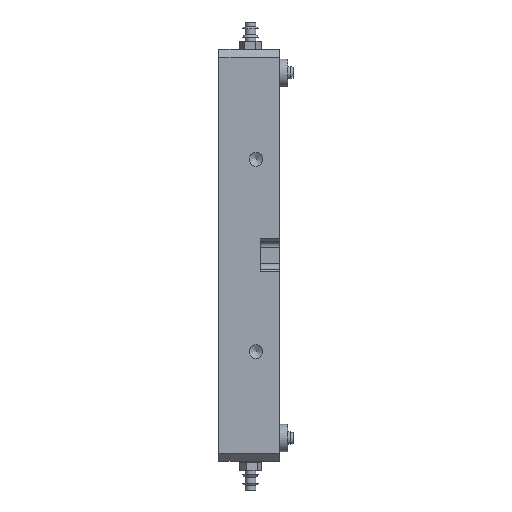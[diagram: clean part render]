
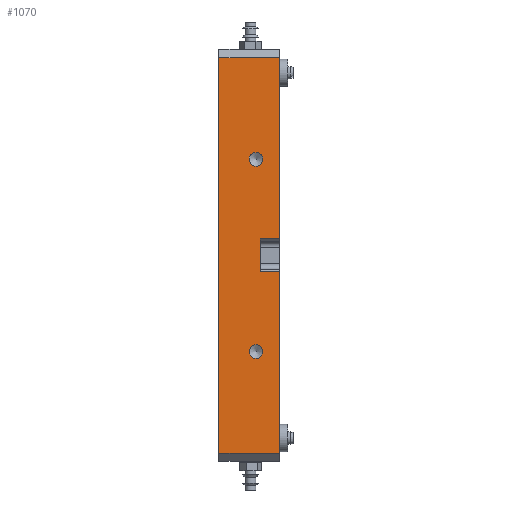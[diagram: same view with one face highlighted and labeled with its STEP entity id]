
A CAD part, front view. The second image highlights one B-rep face of the part: STEP entity #1070.
In plain terms, the highlighted planar face has unit normal (0, -1, 0).
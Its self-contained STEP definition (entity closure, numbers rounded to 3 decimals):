
#264 = DIRECTION ( 'NONE',  ( 1., 0., 0. ) ) ;
#273 = DIRECTION ( 'NONE',  ( 1., 0., 0. ) ) ;
#434 = ORIENTED_EDGE ( 'NONE', *, *, #3980, .F. ) ;
#486 = DIRECTION ( 'NONE',  ( 1., 0., 0. ) ) ;
#702 = DIRECTION ( 'NONE',  ( 0., -1., 0. ) ) ;
#732 = VECTOR ( 'NONE', #4940, 1000. ) ;
#747 = LINE ( 'NONE', #3684, #732 ) ;
#834 = LINE ( 'NONE', #4750, #847 ) ;
#845 = CARTESIAN_POINT ( 'NONE',  ( 17., -6., -72. ) ) ;
#847 = VECTOR ( 'NONE', #1582, 1000. ) ;
#870 = VECTOR ( 'NONE', #264, 1000. ) ;
#878 = LINE ( 'NONE', #845, #870 ) ;
#915 = FACE_BOUND ( 'NONE', #6339, .T. ) ;
#935 = VECTOR ( 'NONE', #6618, 1000. ) ;
#950 = LINE ( 'NONE', #2159, #935 ) ;
#952 = FACE_OUTER_BOUND ( 'NONE', #2759, .T. ) ;
#973 = FACE_BOUND ( 'NONE', #3783, .T. ) ;
#1070 = ADVANCED_FACE ( 'NONE', ( #952, #973, #915 ), #7383, .T. ) ;
#1187 = ORIENTED_EDGE ( 'NONE', *, *, #5937, .T. ) ;
#1318 = ORIENTED_EDGE ( 'NONE', *, *, #5388, .T. ) ;
#1546 = ORIENTED_EDGE ( 'NONE', *, *, #8186, .F. ) ;
#1552 = ORIENTED_EDGE ( 'NONE', *, *, #8084, .F. ) ;
#1577 = CIRCLE ( 'NONE', #4838, 2.5 ) ;
#1582 = DIRECTION ( 'NONE',  ( 0., 0., -1. ) ) ;
#1762 = CIRCLE ( 'NONE', #4982, 2.5 ) ;
#1830 = CARTESIAN_POINT ( 'NONE',  ( 22., -6., -40. ) ) ;
#1944 = ORIENTED_EDGE ( 'NONE', *, *, #7222, .F. ) ;
#1951 = ORIENTED_EDGE ( 'NONE', *, *, #8045, .T. ) ;
#1961 = ORIENTED_EDGE ( 'NONE', *, *, #4876, .T. ) ;
#1965 = CARTESIAN_POINT ( 'NONE',  ( 22., -6., -72. ) ) ;
#1977 = ORIENTED_EDGE ( 'NONE', *, *, #8023, .T. ) ;
#2159 = CARTESIAN_POINT ( 'NONE',  ( 0., -6., 72. ) ) ;
#2173 = ORIENTED_EDGE ( 'NONE', *, *, #6933, .F. ) ;
#2281 = VECTOR ( 'NONE', #7495, 1000. ) ;
#2326 = LINE ( 'NONE', #7207, #2281 ) ;
#2672 = DIRECTION ( 'NONE',  ( 0., 0., -1. ) ) ;
#2722 = VECTOR ( 'NONE', #486, 1000. ) ;
#2728 = LINE ( 'NONE', #3079, #2722 ) ;
#2759 = EDGE_LOOP ( 'NONE', ( #434, #1187, #1552, #1318, #1546, #1977, #1961, #1951 ) ) ;
#3013 = VECTOR ( 'NONE', #2672, 1000. ) ;
#3061 = LINE ( 'NONE', #5825, #3013 ) ;
#3079 = CARTESIAN_POINT ( 'NONE',  ( 22., -6., 6. ) ) ;
#3459 = CARTESIAN_POINT ( 'NONE',  ( 15., -6., -6. ) ) ;
#3684 = CARTESIAN_POINT ( 'NONE',  ( 22., -6., -40. ) ) ;
#3685 = VECTOR ( 'NONE', #3826, 1000. ) ;
#3707 = LINE ( 'NONE', #1830, #3685 ) ;
#3783 = EDGE_LOOP ( 'NONE', ( #1944 ) ) ;
#3826 = DIRECTION ( 'NONE',  ( 0., 0., -1. ) ) ;
#3980 = EDGE_CURVE ( 'NONE', #5057, #4849, #3707, .T. ) ;
#4022 = CARTESIAN_POINT ( 'NONE',  ( 16., -6., -35. ) ) ;
#4166 = DIRECTION ( 'NONE',  ( 0., -1., 0. ) ) ;
#4601 = CARTESIAN_POINT ( 'NONE',  ( 15., -6., 6. ) ) ;
#4606 = CARTESIAN_POINT ( 'NONE',  ( 13.5, -6., -35. ) ) ;
#4750 = CARTESIAN_POINT ( 'NONE',  ( 15., -6., -5. ) ) ;
#4758 = CARTESIAN_POINT ( 'NONE',  ( 22., -6., -6. ) ) ;
#4838 = AXIS2_PLACEMENT_3D ( 'NONE', #7935, #4166, #273 ) ;
#4849 = VERTEX_POINT ( 'NONE', #1965 ) ;
#4876 = EDGE_CURVE ( 'NONE', #5008, #4999, #3061, .T. ) ;
#4921 = VERTEX_POINT ( 'NONE', #4601 ) ;
#4940 = DIRECTION ( 'NONE',  ( 0., 0., -1. ) ) ;
#4954 = VERTEX_POINT ( 'NONE', #7117 ) ;
#4979 = VERTEX_POINT ( 'NONE', #3459 ) ;
#4982 = AXIS2_PLACEMENT_3D ( 'NONE', #4606, #702, #5245 ) ;
#4999 = VERTEX_POINT ( 'NONE', #5354 ) ;
#5008 = VERTEX_POINT ( 'NONE', #5975 ) ;
#5017 = VERTEX_POINT ( 'NONE', #7218 ) ;
#5057 = VERTEX_POINT ( 'NONE', #4758 ) ;
#5245 = DIRECTION ( 'NONE',  ( 1., 0., 0. ) ) ;
#5354 = CARTESIAN_POINT ( 'NONE',  ( 0., -6., -72. ) ) ;
#5388 = EDGE_CURVE ( 'NONE', #4921, #5017, #2728, .T. ) ;
#5825 = CARTESIAN_POINT ( 'NONE',  ( 0., -6., 75. ) ) ;
#5937 = EDGE_CURVE ( 'NONE', #5057, #4979, #2326, .T. ) ;
#5975 = CARTESIAN_POINT ( 'NONE',  ( 0., -6., 72. ) ) ;
#6339 = EDGE_LOOP ( 'NONE', ( #2173 ) ) ;
#6423 = AXIS2_PLACEMENT_3D ( 'NONE', #7183, #6988, #7467 ) ;
#6528 = CARTESIAN_POINT ( 'NONE',  ( 16., -6., 35. ) ) ;
#6618 = DIRECTION ( 'NONE',  ( -1., 0., 0. ) ) ;
#6933 = EDGE_CURVE ( 'NONE', #8114, #8114, #1762, .T. ) ;
#6988 = DIRECTION ( 'NONE',  ( 0., -1., 0. ) ) ;
#7117 = CARTESIAN_POINT ( 'NONE',  ( 22., -6., 72. ) ) ;
#7183 = CARTESIAN_POINT ( 'NONE',  ( 0., -6., 75. ) ) ;
#7207 = CARTESIAN_POINT ( 'NONE',  ( 15., -6., -6. ) ) ;
#7218 = CARTESIAN_POINT ( 'NONE',  ( 22., -6., 6. ) ) ;
#7222 = EDGE_CURVE ( 'NONE', #8052, #8052, #1577, .T. ) ;
#7383 = PLANE ( 'NONE',  #6423 ) ;
#7467 = DIRECTION ( 'NONE',  ( 0., 0., 1. ) ) ;
#7495 = DIRECTION ( 'NONE',  ( -1., 0., 0. ) ) ;
#7935 = CARTESIAN_POINT ( 'NONE',  ( 13.5, -6., 35. ) ) ;
#8023 = EDGE_CURVE ( 'NONE', #4954, #5008, #950, .T. ) ;
#8045 = EDGE_CURVE ( 'NONE', #4999, #4849, #878, .T. ) ;
#8052 = VERTEX_POINT ( 'NONE', #6528 ) ;
#8084 = EDGE_CURVE ( 'NONE', #4921, #4979, #834, .T. ) ;
#8114 = VERTEX_POINT ( 'NONE', #4022 ) ;
#8186 = EDGE_CURVE ( 'NONE', #4954, #5017, #747, .T. ) ;
